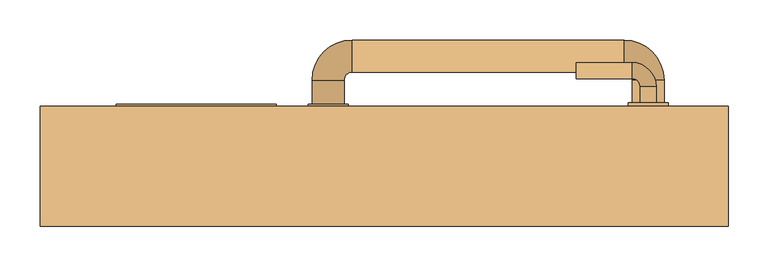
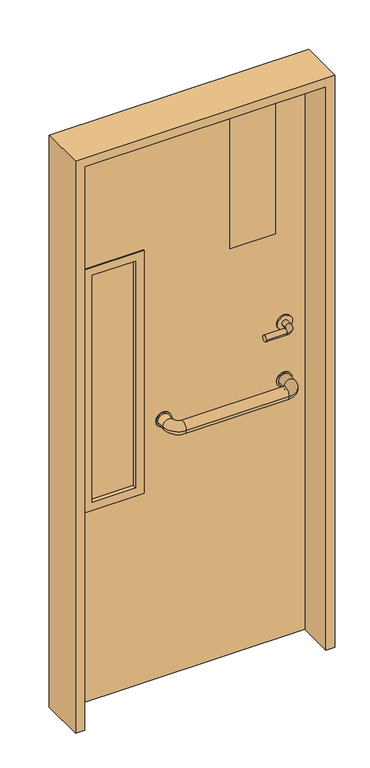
"""IFC4 building model written with IfcOpenShell, lengths in millimetres: door geometry, Porta area de servico : Porta area de servico."""

from ifc_helpers import new_model, si_unit, point, frame, frame_2d, origin, place, context, project, spatial, polyline, circle_curve, ellipse_curve, trimmed, segment, composite_curve, outline, extrude, faceted_brep, source, transform, mapped, element, save
from ifc_brep_helpers import plane_surface, cylinder_surface, revolved_surface, advanced_brep


def door_f5953a39(model_context):
    return source(origin(), model_context, "Body", "SolidModel", [
        extrude(outline(composite_curve([segment(trimmed(circle_curve(frame_2d((900.0, -70.0)), 25.0), [point((900.0, -95.0))], [point((900.0, -45.0))], False, "CARTESIAN"), True, "CONTINUOUS"), segment(trimmed(circle_curve(frame_2d((900.0, -70.0)), 25.0), [point((900.0, -45.0))], [point((900.0, -95.0))], False, "CARTESIAN"), True, "CONTINUOUS")], self_intersect=False)), frame((0.0, 75.0, 0.0), z_axis=(0.0, 1.0, 0.0), x_axis=(0.0, 0.0, 1.0)), (0.0, 0.0, 1.0), 3.0),
        extrude(outline(composite_curve([segment(trimmed(circle_curve(frame_2d((900.0, 330.0)), 25.0), [point((900.0, 305.0))], [point((900.0, 355.0))], False, "CARTESIAN"), True, "CONTINUOUS"), segment(trimmed(circle_curve(frame_2d((900.0, 330.0)), 25.0), [point((900.0, 355.0))], [point((900.0, 305.0))], False, "CARTESIAN"), True, "CONTINUOUS")], self_intersect=False)), frame((0.0, 75.0, 0.0), z_axis=(0.0, 1.0, 0.0), x_axis=(0.0, 0.0, 1.0)), (0.0, 0.0, 1.0), 3.0),
        advanced_brep(
        [(310.0, 78.0, 900.0), (350.0, 78.0, 900.0), (350.0, 108.0, 900.0), (310.0, 108.0, 900.0), (300.0, 158.0, 900.0), (300.0, 118.0, 900.0), (-40.0, 158.0, 900.0), (-40.0, 118.0, 900.0), (-90.0, 108.0, 900.0), (-50.0, 108.0, 900.0), (-50.0, 78.0, 900.0), (-90.0, 78.0, 900.0)],
        [
            (0, 1, circle_curve(frame((330.0, 78.0, 900.0), z_axis=(0.0, -1.0, 0.0), x_axis=(1.0, 0.0, 0.0)), 20.0)),
            (1, 0, circle_curve(frame((330.0, 78.0, 900.0), z_axis=(0.0, -1.0, 0.0), x_axis=(1.0, 0.0, 0.0)), 20.0)),
            (1, 2),
            (2, 3, circle_curve(frame((330.0, 108.0, 900.0), z_axis=(0.0, -1.0, 0.0), x_axis=(1.0, 0.0, 0.0)), 20.0)),
            (3, 0),
            (3, 2, circle_curve(frame((330.0, 108.0, 900.0), z_axis=(0.0, -1.0, 0.0), x_axis=(1.0, 0.0, 0.0)), 20.0)),
            (4, 5, circle_curve(frame((300.0, 138.0, 900.0), z_axis=(1.0, 0.0, 0.0), x_axis=(0.0, 1.0, 0.0)), 20.0)),
            (5, 3, circle_curve(frame((300.0, 108.0, 900.0), z_axis=(0.0, 0.0, -1.0), x_axis=(1.0, 0.0, 0.0)), 10.0)),
            (2, 4, circle_curve(frame((300.0, 108.0, 900.0), z_axis=(0.0, 0.0, 1.0), x_axis=(1.0, 0.0, 0.0)), 50.0)),
            (5, 4, circle_curve(frame((300.0, 138.0, 900.0), z_axis=(1.0, 0.0, 0.0), x_axis=(0.0, 1.0, 0.0)), 20.0)),
            (4, 6),
            (6, 7, circle_curve(frame((-40.0, 138.0, 900.0), z_axis=(1.0, 0.0, 0.0), x_axis=(0.0, 1.0, 0.0)), 20.0)),
            (7, 5),
            (7, 6, circle_curve(frame((-40.0, 138.0, 900.0), z_axis=(1.0, 0.0, 0.0), x_axis=(0.0, 1.0, 0.0)), 20.0)),
            (8, 9, circle_curve(frame((-70.0, 108.0, 900.0), z_axis=(0.0, 1.0, 0.0), x_axis=(-1.0, 0.0, 0.0)), 20.0)),
            (9, 7, circle_curve(frame((-40.0, 108.0, 900.0), z_axis=(0.0, 0.0, -1.0), x_axis=(0.0, 1.0, 0.0)), 10.0)),
            (6, 8, circle_curve(frame((-40.0, 108.0, 900.0), z_axis=(0.0, 0.0, 1.0), x_axis=(0.0, 1.0, 0.0)), 50.0)),
            (9, 8, circle_curve(frame((-70.0, 108.0, 900.0), z_axis=(0.0, 1.0, 0.0), x_axis=(-1.0, 0.0, 0.0)), 20.0)),
            (10, 11, circle_curve(frame((-70.0, 78.0, 900.0), z_axis=(0.0, -1.0, 0.0), x_axis=(-1.0, 0.0, 0.0)), 20.0)),
            (11, 10, circle_curve(frame((-70.0, 78.0, 900.0), z_axis=(0.0, -1.0, 0.0), x_axis=(-1.0, 0.0, 0.0)), 20.0)),
            (8, 11),
            (10, 9),
        ],
        [
            plane_surface(frame((330.0, 78.0, 900.0), z_axis=(0.0, -1.0, 0.0), x_axis=(0.0, 0.0, 1.0))),
            cylinder_surface(frame((330.0, 78.0, 900.0), z_axis=(0.0, -1.0, 0.0), x_axis=(1.0, 0.0, 0.0)), 20.0),
            revolved_surface(trimmed(ellipse_curve(frame((330.0, 108.0, 900.0), z_axis=(0.0, 1.0, 0.0), x_axis=(1.0, 0.0, 0.0)), 20.0, 20.0), [point((310.0, 108.0, 900.0))], [point((350.0, 108.0, 900.0))], True, "CARTESIAN"), (300.0, 108.0, 900.0), (0.0, 0.0, -1.0)),
            revolved_surface(trimmed(ellipse_curve(frame((330.0, 108.0, 900.0), z_axis=(0.0, 1.0, 0.0), x_axis=(1.0, 0.0, 0.0)), 20.0, 20.0), [point((350.0, 108.0, 900.0))], [point((310.0, 108.0, 900.0))], True, "CARTESIAN"), (300.0, 108.0, 900.0), (0.0, 0.0, -1.0)),
            cylinder_surface(frame((300.0, 138.0, 900.0), z_axis=(1.0, 0.0, 0.0), x_axis=(0.0, 1.0, 0.0)), 20.0),
            revolved_surface(trimmed(ellipse_curve(frame((-40.0, 138.0, 900.0), z_axis=(-1.0, 0.0, 0.0), x_axis=(0.0, 1.0, 0.0)), 20.0, 20.0), [point((-40.0, 118.0, 900.0))], [point((-40.0, 158.0, 900.0))], True, "CARTESIAN"), (-40.0, 108.0, 900.0), (0.0, 0.0, -1.0)),
            revolved_surface(trimmed(ellipse_curve(frame((-40.0, 138.0, 900.0), z_axis=(-1.0, 0.0, 0.0), x_axis=(0.0, 1.0, 0.0)), 20.0, 20.0), [point((-40.0, 158.0, 900.0))], [point((-40.0, 118.0, 900.0))], True, "CARTESIAN"), (-40.0, 108.0, 900.0), (0.0, 0.0, -1.0)),
            plane_surface(frame((-70.0, 78.0, 900.0), z_axis=(0.0, -1.0, 0.0), x_axis=(0.0, 0.0, 1.0))),
            cylinder_surface(frame((-70.0, 108.0, 900.0), z_axis=(0.0, 1.0, 0.0), x_axis=(-1.0, 0.0, 0.0)), 20.0),
        ],
        [
            (0, [[1, 2]]),
            (1, [[3, 4, 5, -2]]),
            (1, [[-5, 6, -3, -1]]),
            (2, [[7, 8, -4, 9]]),
            (3, [[10, -9, -6, -8]]),
            (4, [[11, 12, 13, -7]]),
            (4, [[-13, 14, -11, -10]]),
            (5, [[15, 16, -12, 17]]),
            (6, [[18, -17, -14, -16]]),
            (7, [[19, 20]]),
            (8, [[21, -19, 22, -15]]),
            (8, [[-22, -20, -21, -18]]),
        ],
    ),
        extrude(outline(composite_curve([segment(trimmed(circle_curve(frame_2d((900.0, -70.0)), 25.0), [point((900.0, -95.0))], [point((900.0, -45.0))], False, "CARTESIAN"), True, "CONTINUOUS"), segment(trimmed(circle_curve(frame_2d((900.0, -70.0)), 25.0), [point((900.0, -45.0))], [point((900.0, -95.0))], False, "CARTESIAN"), True, "CONTINUOUS")], self_intersect=False)), frame((0.0, 42.0, 0.0), z_axis=(0.0, 1.0, 0.0), x_axis=(0.0, 0.0, 1.0)), (0.0, 0.0, 1.0), 3.0),
        extrude(outline(composite_curve([segment(trimmed(circle_curve(frame_2d((900.0, 330.0)), 25.0), [point((900.0, 305.0))], [point((900.0, 355.0))], False, "CARTESIAN"), True, "CONTINUOUS"), segment(trimmed(circle_curve(frame_2d((900.0, 330.0)), 25.0), [point((900.0, 355.0))], [point((900.0, 305.0))], False, "CARTESIAN"), True, "CONTINUOUS")], self_intersect=False)), frame((0.0, 42.0, 0.0), z_axis=(0.0, 1.0, 0.0), x_axis=(0.0, 0.0, 1.0)), (0.0, 0.0, 1.0), 3.0),
        advanced_brep(
        [(310.0, 42.0, 900.0), (350.0, 42.0, 900.0), (310.0, 12.0, 900.0), (350.0, 12.0, 900.0), (300.0, -38.0, 900.0), (300.0, 2.0, 900.0), (-40.0, 2.0, 900.0), (-40.0, -38.0, 900.0), (-90.0, 12.0, 900.0), (-50.0, 12.0, 900.0), (-50.0, 42.0, 900.0), (-90.0, 42.0, 900.0)],
        [
            (0, 1, circle_curve(frame((330.0, 42.0, 900.0), z_axis=(0.0, 1.0, 0.0), x_axis=(1.0, 0.0, 0.0)), 20.0)),
            (1, 0, circle_curve(frame((330.0, 42.0, 900.0), z_axis=(0.0, 1.0, 0.0), x_axis=(1.0, 0.0, 0.0)), 20.0)),
            (0, 2),
            (2, 3, circle_curve(frame((330.0, 12.0, 900.0), z_axis=(0.0, 1.0, 0.0), x_axis=(1.0, 0.0, 0.0)), 20.0)),
            (3, 1),
            (3, 2, circle_curve(frame((330.0, 12.0, 900.0), z_axis=(0.0, 1.0, 0.0), x_axis=(1.0, 0.0, 0.0)), 20.0)),
            (4, 3, circle_curve(frame((300.0, 12.0, 900.0), z_axis=(0.0, 0.0, 1.0), x_axis=(1.0, 0.0, 0.0)), 50.0)),
            (2, 5, circle_curve(frame((300.0, 12.0, 900.0), z_axis=(0.0, 0.0, -1.0), x_axis=(1.0, 0.0, 0.0)), 10.0)),
            (5, 4, circle_curve(frame((300.0, -18.0, 900.0), z_axis=(1.0, 0.0, 0.0), x_axis=(0.0, -1.0, 0.0)), 20.0)),
            (4, 5, circle_curve(frame((300.0, -18.0, 900.0), z_axis=(1.0, 0.0, 0.0), x_axis=(0.0, -1.0, 0.0)), 20.0)),
            (5, 6),
            (6, 7, circle_curve(frame((-40.0, -18.0, 900.0), z_axis=(1.0, 0.0, 0.0), x_axis=(0.0, -1.0, 0.0)), 20.0)),
            (7, 4),
            (7, 6, circle_curve(frame((-40.0, -18.0, 900.0), z_axis=(1.0, 0.0, 0.0), x_axis=(0.0, -1.0, 0.0)), 20.0)),
            (8, 7, circle_curve(frame((-40.0, 12.0, 900.0), z_axis=(0.0, 0.0, 1.0), x_axis=(0.0, -1.0, 0.0)), 50.0)),
            (6, 9, circle_curve(frame((-40.0, 12.0, 900.0), z_axis=(0.0, 0.0, -1.0), x_axis=(0.0, -1.0, 0.0)), 10.0)),
            (9, 8, circle_curve(frame((-70.0, 12.0, 900.0), z_axis=(0.0, -1.0, 0.0), x_axis=(-1.0, 0.0, 0.0)), 20.0)),
            (8, 9, circle_curve(frame((-70.0, 12.0, 900.0), z_axis=(0.0, -1.0, 0.0), x_axis=(-1.0, 0.0, 0.0)), 20.0)),
            (10, 11, circle_curve(frame((-70.0, 42.0, 900.0), z_axis=(0.0, 1.0, 0.0), x_axis=(-1.0, 0.0, 0.0)), 20.0)),
            (11, 10, circle_curve(frame((-70.0, 42.0, 900.0), z_axis=(0.0, 1.0, 0.0), x_axis=(-1.0, 0.0, 0.0)), 20.0)),
            (9, 10),
            (11, 8),
        ],
        [
            plane_surface(frame((330.0, 42.0, 900.0), z_axis=(0.0, 1.0, 0.0), x_axis=(0.0, 0.0, 1.0))),
            cylinder_surface(frame((330.0, 42.0, 900.0), z_axis=(0.0, 1.0, 0.0), x_axis=(1.0, 0.0, 0.0)), 20.0),
            revolved_surface(trimmed(ellipse_curve(frame((330.0, 12.0, 900.0), z_axis=(0.0, 1.0, 0.0), x_axis=(1.0, 0.0, 0.0)), 20.0, 20.0), [point((310.0, 12.0, 900.0))], [point((350.0, 12.0, 900.0))], True, "CARTESIAN"), (300.0, 12.0, 900.0), (0.0, 0.0, -1.0)),
            revolved_surface(trimmed(ellipse_curve(frame((330.0, 12.0, 900.0), z_axis=(0.0, 1.0, 0.0), x_axis=(1.0, 0.0, 0.0)), 20.0, 20.0), [point((350.0, 12.0, 900.0))], [point((310.0, 12.0, 900.0))], True, "CARTESIAN"), (300.0, 12.0, 900.0), (0.0, 0.0, -1.0)),
            cylinder_surface(frame((300.0, -18.0, 900.0), z_axis=(1.0, 0.0, 0.0), x_axis=(0.0, -1.0, 0.0)), 20.0),
            revolved_surface(trimmed(ellipse_curve(frame((-40.0, -18.0, 900.0), z_axis=(1.0, 0.0, 0.0), x_axis=(0.0, -1.0, 0.0)), 20.0, 20.0), [point((-40.0, 2.0, 900.0))], [point((-40.0, -38.0, 900.0))], True, "CARTESIAN"), (-40.0, 12.0, 900.0), (0.0, 0.0, -1.0)),
            revolved_surface(trimmed(ellipse_curve(frame((-40.0, -18.0, 900.0), z_axis=(1.0, 0.0, 0.0), x_axis=(0.0, -1.0, 0.0)), 20.0, 20.0), [point((-40.0, -38.0, 900.0))], [point((-40.0, 2.0, 900.0))], True, "CARTESIAN"), (-40.0, 12.0, 900.0), (0.0, 0.0, -1.0)),
            plane_surface(frame((-70.0, 42.0, 900.0), z_axis=(0.0, 1.0, 0.0), x_axis=(0.0, 0.0, 1.0))),
            cylinder_surface(frame((-70.0, 12.0, 900.0), z_axis=(0.0, -1.0, 0.0), x_axis=(-1.0, 0.0, 0.0)), 20.0),
        ],
        [
            (0, [[1, 2]]),
            (1, [[-1, 3, 4, 5]]),
            (1, [[-2, -5, 6, -3]]),
            (2, [[7, -4, 8, 9]]),
            (3, [[-8, -6, -7, 10]]),
            (4, [[-9, 11, 12, 13]]),
            (4, [[-10, -13, 14, -11]]),
            (5, [[15, -12, 16, 17]]),
            (6, [[-16, -14, -15, 18]]),
            (7, [[19, 20]]),
            (8, [[-17, 21, -20, 22]]),
            (8, [[-18, -22, -19, -21]]),
        ],
    ),
        extrude(outline(composite_curve([segment(trimmed(circle_curve(frame_2d((1100.0, 330.0)), 25.0), [point((1100.0, 305.0))], [point((1100.0, 355.0))], False, "CARTESIAN"), True, "CONTINUOUS"), segment(trimmed(circle_curve(frame_2d((1100.0, 330.0)), 25.0), [point((1100.0, 355.0))], [point((1100.0, 305.0))], False, "CARTESIAN"), True, "CONTINUOUS")], self_intersect=False)), frame((0.0, 75.0, 0.0), z_axis=(0.0, 1.0, 0.0), x_axis=(0.0, 0.0, 1.0)), (0.0, 0.0, 1.0), 5.0),
        advanced_brep(
        [(320.0, 80.0, 1100.0), (340.0, 80.0, 1100.0), (340.0, 100.0, 1100.0), (320.0, 100.0, 1100.0), (310.0, 130.0, 1100.0), (310.0, 110.0, 1100.0), (240.0, 110.0, 1100.0), (240.0, 130.0, 1100.0)],
        [
            (0, 1, circle_curve(frame((330.0, 80.0, 1100.0), z_axis=(0.0, -1.0, 0.0), x_axis=(1.0, 0.0, 0.0)), 10.0)),
            (1, 0, circle_curve(frame((330.0, 80.0, 1100.0), z_axis=(0.0, -1.0, 0.0), x_axis=(1.0, 0.0, 0.0)), 10.0)),
            (1, 2),
            (2, 3, circle_curve(frame((330.0, 100.0, 1100.0), z_axis=(0.0, -1.0, 0.0), x_axis=(1.0, 0.0, 0.0)), 10.0)),
            (3, 0),
            (3, 2, circle_curve(frame((330.0, 100.0, 1100.0), z_axis=(0.0, -1.0, 0.0), x_axis=(1.0, 0.0, 0.0)), 10.0)),
            (4, 5, circle_curve(frame((310.0, 120.0, 1100.0), z_axis=(1.0, 0.0, 0.0), x_axis=(0.0, 1.0, 0.0)), 10.0)),
            (5, 3, circle_curve(frame((310.0, 100.0, 1100.0), z_axis=(0.0, 0.0, -1.0), x_axis=(1.0, 0.0, 0.0)), 10.0)),
            (2, 4, circle_curve(frame((310.0, 100.0, 1100.0), z_axis=(0.0, 0.0, 1.0), x_axis=(1.0, 0.0, 0.0)), 30.0)),
            (5, 4, circle_curve(frame((310.0, 120.0, 1100.0), z_axis=(1.0, 0.0, 0.0), x_axis=(0.0, 1.0, 0.0)), 10.0)),
            (6, 7, circle_curve(frame((240.0, 120.0, 1100.0), z_axis=(-1.0, 0.0, 0.0), x_axis=(0.0, 1.0, 0.0)), 10.0)),
            (7, 6, circle_curve(frame((240.0, 120.0, 1100.0), z_axis=(-1.0, 0.0, 0.0), x_axis=(0.0, 1.0, 0.0)), 10.0)),
            (4, 7),
            (6, 5),
        ],
        [
            plane_surface(frame((330.0, 80.0, 1100.0), z_axis=(0.0, -1.0, 0.0), x_axis=(0.0, 0.0, 1.0))),
            cylinder_surface(frame((330.0, 80.0, 1100.0), z_axis=(0.0, -1.0, 0.0), x_axis=(1.0, 0.0, 0.0)), 10.0),
            revolved_surface(trimmed(ellipse_curve(frame((330.0, 100.0, 1100.0), z_axis=(0.0, 1.0, 0.0), x_axis=(1.0, 0.0, 0.0)), 10.0, 10.0), [point((320.0, 100.0, 1100.0))], [point((340.0, 100.0, 1100.0))], True, "CARTESIAN"), (310.0, 100.0, 1100.0), (0.0, 0.0, -1.0)),
            revolved_surface(trimmed(ellipse_curve(frame((330.0, 100.0, 1100.0), z_axis=(0.0, 1.0, 0.0), x_axis=(1.0, 0.0, 0.0)), 10.0, 10.0), [point((340.0, 100.0, 1100.0))], [point((320.0, 100.0, 1100.0))], True, "CARTESIAN"), (310.0, 100.0, 1100.0), (0.0, 0.0, -1.0)),
            plane_surface(frame((240.0, 120.0, 1100.0), z_axis=(-1.0, 0.0, 0.0), x_axis=(0.0, 0.0, 1.0))),
            cylinder_surface(frame((310.0, 120.0, 1100.0), z_axis=(1.0, 0.0, 0.0), x_axis=(0.0, 1.0, 0.0)), 10.0),
        ],
        [
            (0, [[1, 2]]),
            (1, [[3, 4, 5, -2]]),
            (1, [[-5, 6, -3, -1]]),
            (2, [[7, 8, -4, 9]]),
            (3, [[10, -9, -6, -8]]),
            (4, [[11, 12]]),
            (5, [[13, -11, 14, -7]]),
            (5, [[-14, -12, -13, -10]]),
        ],
    ),
        extrude(outline(composite_curve([segment(trimmed(circle_curve(frame_2d((1100.0, 330.0)), 25.0), [point((1100.0, 305.0))], [point((1100.0, 355.0))], False, "CARTESIAN"), True, "CONTINUOUS"), segment(trimmed(circle_curve(frame_2d((1100.0, 330.0)), 25.0), [point((1100.0, 355.0))], [point((1100.0, 305.0))], False, "CARTESIAN"), True, "CONTINUOUS")], self_intersect=False)), frame((0.0, 40.0, 0.0), z_axis=(0.0, 1.0, 0.0), x_axis=(0.0, 0.0, 1.0)), (0.0, 0.0, 1.0), 5.0),
        advanced_brep(
        [(320.0, 40.0, 1100.0), (340.0, 40.0, 1100.0), (320.0, 20.0, 1100.0), (340.0, 20.0, 1100.0), (310.0, -10.0, 1100.0), (310.0, 10.0, 1100.0), (240.0, 10.0, 1100.0), (240.0, -10.0, 1100.0)],
        [
            (0, 1, circle_curve(frame((330.0, 40.0, 1100.0), z_axis=(0.0, 1.0, 0.0), x_axis=(1.0, 0.0, 0.0)), 10.0)),
            (1, 0, circle_curve(frame((330.0, 40.0, 1100.0), z_axis=(0.0, 1.0, 0.0), x_axis=(1.0, 0.0, 0.0)), 10.0)),
            (0, 2),
            (2, 3, circle_curve(frame((330.0, 20.0, 1100.0), z_axis=(0.0, 1.0, 0.0), x_axis=(1.0, 0.0, 0.0)), 10.0)),
            (3, 1),
            (3, 2, circle_curve(frame((330.0, 20.0, 1100.0), z_axis=(0.0, 1.0, 0.0), x_axis=(1.0, 0.0, 0.0)), 10.0)),
            (4, 3, circle_curve(frame((310.0, 20.0, 1100.0), z_axis=(0.0, 0.0, 1.0), x_axis=(1.0, 0.0, 0.0)), 30.0)),
            (2, 5, circle_curve(frame((310.0, 20.0, 1100.0), z_axis=(0.0, 0.0, -1.0), x_axis=(1.0, 0.0, 0.0)), 10.0)),
            (5, 4, circle_curve(frame((310.0, 0.0, 1100.0), z_axis=(1.0, 0.0, 0.0), x_axis=(0.0, -1.0, 0.0)), 10.0)),
            (4, 5, circle_curve(frame((310.0, 0.0, 1100.0), z_axis=(1.0, 0.0, 0.0), x_axis=(0.0, -1.0, 0.0)), 10.0)),
            (6, 7, circle_curve(frame((240.0, 0.0, 1100.0), z_axis=(-1.0, 0.0, 0.0), x_axis=(0.0, -1.0, 0.0)), 10.0)),
            (7, 6, circle_curve(frame((240.0, 0.0, 1100.0), z_axis=(-1.0, 0.0, 0.0), x_axis=(0.0, -1.0, 0.0)), 10.0)),
            (5, 6),
            (7, 4),
        ],
        [
            plane_surface(frame((330.0, 40.0, 1100.0), z_axis=(0.0, 1.0, 0.0), x_axis=(0.0, 0.0, 1.0))),
            cylinder_surface(frame((330.0, 40.0, 1100.0), z_axis=(0.0, 1.0, 0.0), x_axis=(1.0, 0.0, 0.0)), 10.0),
            revolved_surface(trimmed(ellipse_curve(frame((330.0, 20.0, 1100.0), z_axis=(0.0, 1.0, 0.0), x_axis=(1.0, 0.0, 0.0)), 10.0, 10.0), [point((320.0, 20.0, 1100.0))], [point((340.0, 20.0, 1100.0))], True, "CARTESIAN"), (310.0, 20.0, 1100.0), (0.0, 0.0, -1.0)),
            revolved_surface(trimmed(ellipse_curve(frame((330.0, 20.0, 1100.0), z_axis=(0.0, 1.0, 0.0), x_axis=(1.0, 0.0, 0.0)), 10.0, 10.0), [point((340.0, 20.0, 1100.0))], [point((320.0, 20.0, 1100.0))], True, "CARTESIAN"), (310.0, 20.0, 1100.0), (0.0, 0.0, -1.0)),
            plane_surface(frame((240.0, 0.0, 1100.0), z_axis=(-1.0, 0.0, 0.0), x_axis=(0.0, 0.0, 1.0))),
            cylinder_surface(frame((310.0, 0.0, 1100.0), z_axis=(1.0, 0.0, 0.0), x_axis=(0.0, -1.0, 0.0)), 10.0),
        ],
        [
            (0, [[1, 2]]),
            (1, [[-1, 3, 4, 5]]),
            (1, [[-2, -5, 6, -3]]),
            (2, [[7, -4, 8, 9]]),
            (3, [[-8, -6, -7, 10]]),
            (4, [[11, 12]]),
            (5, [[-9, 13, -12, 14]]),
            (5, [[-10, -14, -11, -13]]),
        ],
    ),
        faceted_brep([(-430.0, -75.0, 0.0), (-430.0, 75.0, 0.0), (-410.0, 75.0, 0.0), (-410.0, 45.0, 0.0), (-400.0, 45.0, 0.0), (-400.0, -75.0, 0.0), (-400.0, -75.0, 1970.0), (400.0, -75.0, 1970.0), (400.0, -75.0, 0.0), (430.0, -75.0, 0.0), (430.0, -75.0, 2000.0), (-430.0, -75.0, 2000.0), (-400.0, 45.0, 1970.0), (-410.0, 45.0, 1980.0), (410.0, 45.0, 1980.0), (410.0, 45.0, 0.0), (400.0, 45.0, 0.0), (400.0, 45.0, 1970.0), (-410.0, 75.0, 1980.0), (-430.0, 75.0, 2000.0), (430.0, 75.0, 2000.0), (430.0, 75.0, 0.0), (410.0, 75.0, 0.0), (410.0, 75.0, 1980.0)], [[[0, 1, 2, 3, 4, 5]], [[5, 6, 7, 8, 9, 10, 11, 0]], [[4, 12, 6, 5]], [[3, 13, 14, 15, 16, 17, 12, 4]], [[2, 18, 13, 3]], [[1, 19, 20, 21, 22, 23, 18, 2]], [[0, 11, 19, 1]], [[17, 16, 8, 7]], [[9, 8, 16, 15, 22, 21]], [[23, 22, 15, 14]], [[10, 9, 21, 20]], [[12, 17, 7, 6]], [[18, 23, 14, 13]], [[11, 10, 20, 19]]]),
        extrude(outline(polyline([(-163.0, 63.4643825), (-163.0, 56.5356175), (-307.0, 56.5356175), (-307.0, 63.4643825), (-163.0, 63.4643825)])), frame((0.0, 0.0, 693.0), z_axis=(0.0, 0.0, 1.0), x_axis=(1.0, 0.0, 0.0)), (0.0, 0.0, 1.0), 924.0),
        faceted_brep([(-335.0, 42.0, 1515.0), (-135.0, 42.0, 1515.0), (-135.0, 45.0, 1515.0), (-335.0, 45.0, 1515.0), (-307.0, 78.0, 1487.0), (-163.0, 78.0, 1487.0), (-163.0, 42.0, 1487.0), (-307.0, 42.0, 1487.0), (-335.0, 75.0, 1515.0), (-135.0, 75.0, 1515.0), (-135.0, 78.0, 1515.0), (-335.0, 78.0, 1515.0), (-310.0, 45.0, 1490.0), (-160.0, 45.0, 1490.0), (-160.0, 75.0, 1490.0), (-310.0, 75.0, 1490.0), (-135.0, 42.0, 665.0), (-135.0, 45.0, 665.0), (-163.0, 78.0, 693.0), (-163.0, 42.0, 693.0), (-135.0, 75.0, 665.0), (-135.0, 78.0, 665.0), (-160.0, 45.0, 690.0), (-160.0, 75.0, 690.0), (-335.0, 42.0, 665.0), (-335.0, 45.0, 665.0), (-307.0, 78.0, 693.0), (-307.0, 42.0, 693.0), (-335.0, 75.0, 665.0), (-335.0, 78.0, 665.0), (-310.0, 45.0, 690.0), (-310.0, 75.0, 690.0)], [[[0, 1, 2, 3]], [[4, 5, 6, 7]], [[8, 9, 10, 11]], [[12, 13, 14, 15]], [[1, 16, 17, 2]], [[5, 18, 19, 6]], [[9, 20, 21, 10]], [[13, 22, 23, 14]], [[16, 24, 25, 17]], [[18, 26, 27, 19]], [[20, 28, 29, 21]], [[22, 30, 31, 23]], [[3, 2, 17, 25], [13, 12, 30, 22]], [[24, 0, 3, 25]], [[1, 0, 24, 16], [7, 6, 19, 27]], [[26, 4, 7, 27]], [[11, 10, 21, 29], [5, 4, 26, 18]], [[28, 8, 11, 29]], [[9, 8, 28, 20], [15, 14, 23, 31]], [[30, 12, 15, 31]]]),
        extrude(outline(polyline([(0.0, 410.0), (1980.0, 410.0), (1980.0, -410.0), (0.0, -410.0), (0.0, 410.0)]), holes=[polyline([(690.0, -160.0), (690.0, -310.0), (1490.0, -310.0), (1490.0, -160.0), (690.0, -160.0)])]), frame((0.0, 45.0, 0.0), z_axis=(0.0, 1.0, 0.0), x_axis=(0.0, 0.0, 1.0)), (0.0, 0.0, 1.0), 30.0),
        extrude(outline(polyline([(150.0, 42.0), (150.0, 45.0), (300.0, 45.0), (300.0, 42.0), (150.0, 42.0)])), frame((0.0, 0.0, 1420.0), z_axis=(0.0, 0.0, 1.0), x_axis=(1.0, 0.0, 0.0)), (0.0, 0.0, 1.0), 550.0),
    ])


if __name__ == "__main__":
    model = new_model("IFC4")
    model_context = context("Model", 3, world=origin())
    ifc_project = project(units=[si_unit("LENGTHUNIT", "METRE", prefix="MILLI")], contexts=[model_context])
    site = spatial("IfcSite", under=ifc_project)
    building = spatial("IfcBuilding", under=site)
    placement = place(None, origin())
    door_shape = door_f5953a39(model_context)
    element("IfcDoor", 1, ObjectType="Porta area de servico : Porta area de servico", at=placement, inside=building, context=model_context, shape_type="MappedRepresentation", body=[
        mapped(door_shape, transform((0.0, 0.0, 0.0), x_axis=(1.0, 0.0, 0.0), y_axis=(0.0, 1.0, 0.0), z_axis=(0.0, 0.0, 1.0))),
    ])
    save(model, "model.ifc")
